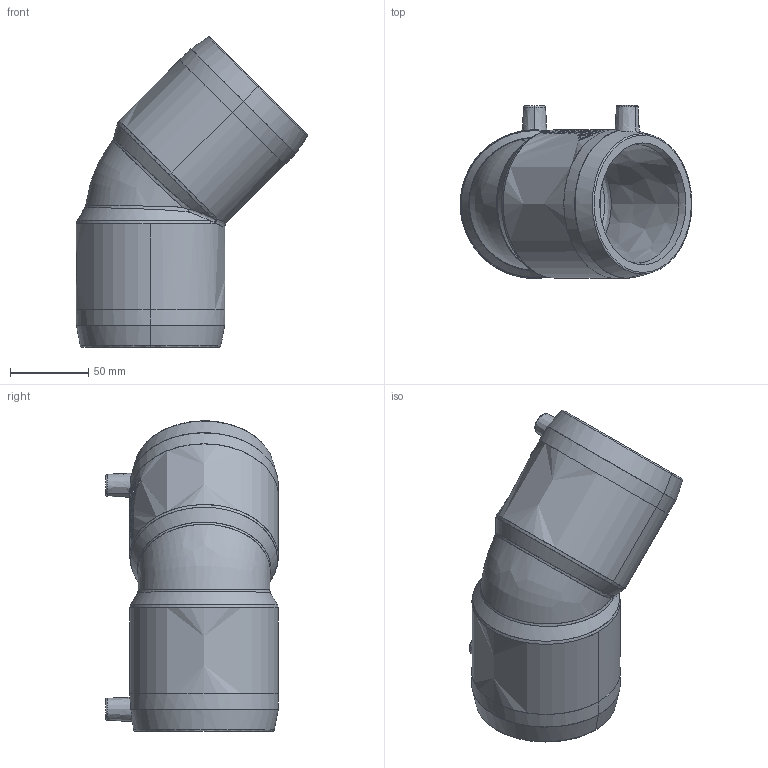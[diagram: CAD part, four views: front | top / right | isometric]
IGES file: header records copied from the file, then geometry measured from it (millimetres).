
Start section:  PTC IGES file: w45_d075_01.igs
Global section: file name: w45_d075_01.igs; native system: Pro/ENGINEER by Parametric Technology Corporation; preprocessor: 2011490; author: mtunjic; organization: Unknown; date: 20130812.112729; units: millimetre
Bounding box: 148.26 x 110.62 x 198.66 mm (x, y, z)
Surface area: 107358.9 mm2 (no closed solid volume)
Topology: 0 solids, 0 shells, 202 faces, 1034 edges, 1034 vertices
Faces by surface type: bspline 202
